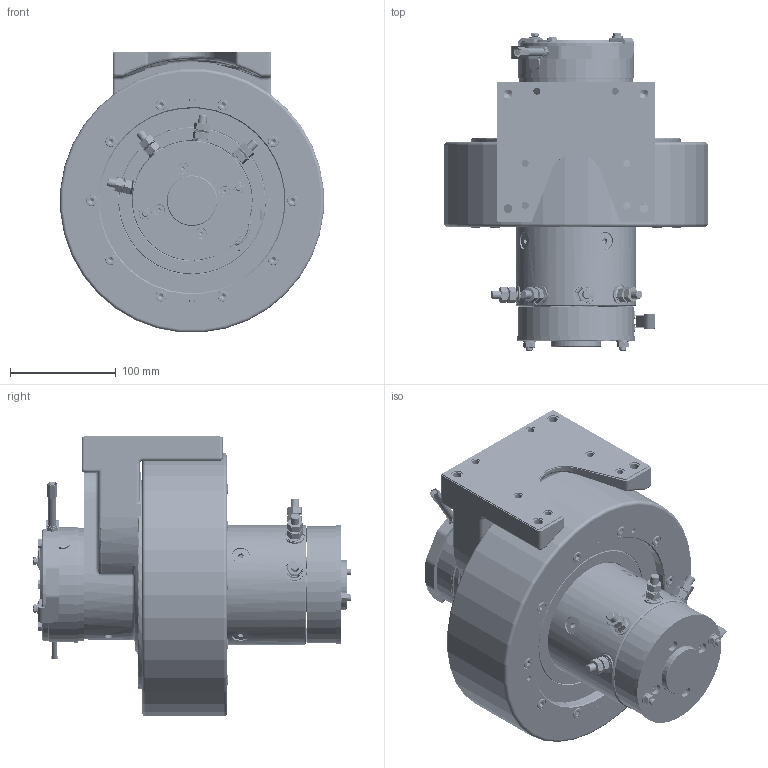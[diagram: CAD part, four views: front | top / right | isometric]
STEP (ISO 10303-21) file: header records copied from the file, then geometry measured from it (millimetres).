
FILE_DESCRIPTION(/* description */ (''),/* implementation_level */ '2;1');
FILE_NAME(/* name */ 'Z:\SITO WEB 2023\Motoruote\Orizzontali NON sterzanti\MR240FR\MR240FR DC\MR240FR-DC.stp',/* time_stamp */ '2023-05-19T08:40:33+02:00',/* author */ ('cad3'),/* organization */ (''),/* preprocessor_version */ 'ST-DEVELOPER v18.1',/* originating_system */ 'Autodesk Inventor 2022',/* authorisation */ '');
FILE_SCHEMA (('AUTOMOTIVE_DESIGN { 1 0 10303 214 3 1 1 }'));
Products named in the file (1): MR240FR-DC
Bounding box: 249.18 x 300.4 x 265.59 mm (x, y, z)
Volume: 3439241.7 mm3; surface area: 776033.4 mm2
Topology: 20 solids, 27 shells, 6177 faces, 15723 edges, 10186 vertices
Faces by surface type: plane 4758, cylinder 730, cone 413, torus 137, bspline 124, sphere 15
Full cylindrical faces by diameter (mm): 2 x2, 2.1 x8, 2.5 x2, 2.6 x1, 3 x2, 4 x4, 4.1 x2, 4.134 x7, 4.3 x6, 4.5 x2, 4.917 x4, 5 x19, 5.2 x21, 5.5 x5, 6 x18, 6.5 x13, 6.647 x6, 6.75 x6, 6.88 x3, 6.917 x3, 7 x3, 7.1 x1, 7.8 x1, 8 x21, 8.2 x4, 8.376 x5, 8.4 x9, 8.5 x12, 9 x19, 9.64 x4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
Entity records: 201318 total; most frequent: CARTESIAN_POINT 43957, DIRECTION 31493, ORIENTED_EDGE 31416, EDGE_CURVE 15708, AXIS2_PLACEMENT_3D 10839, VERTEX_POINT 10201, LINE 9815, VECTOR 9815
